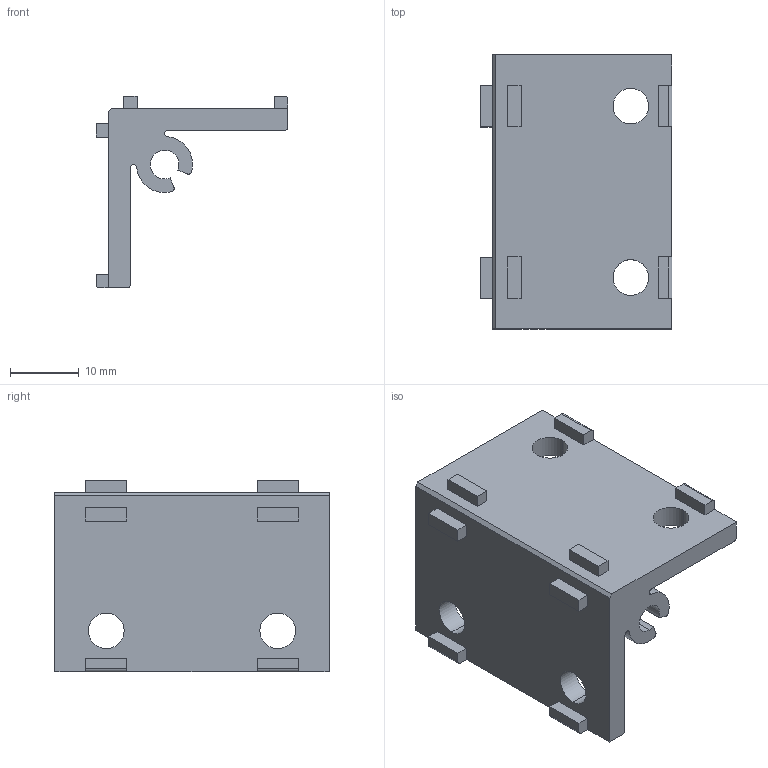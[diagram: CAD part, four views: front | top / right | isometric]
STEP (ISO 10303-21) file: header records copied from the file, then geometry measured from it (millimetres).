
FILE_DESCRIPTION (( 'STEP AP214' ), '1' );
FILE_NAME ('SMBD3-2550.STEP', '2019-11-21T06:16:40', ( '微软用户' ), ( '微软中国' ), 'SwSTEP 2.0', 'SolidWorks 2016', '' );
FILE_SCHEMA (( 'AUTOMOTIVE_DESIGN' ));
Length unit declared in the file: millimetre
Products named in the file (1): SMBD3-2550
Bounding box: 28 x 40 x 28 mm (x, y, z)
Volume: 8025.9 mm3; surface area: 5719 mm2
Topology: 1 solids, 1 shells, 72 faces, 198 edges, 132 vertices
Faces by surface type: plane 47, cylinder 25
Entity records: 2342 total; most frequent: CARTESIAN_POINT 403, ORIENTED_EDGE 396, DIRECTION 394, EDGE_CURVE 198, LINE 148, VECTOR 148, VERTEX_POINT 132, AXIS2_PLACEMENT_3D 123
